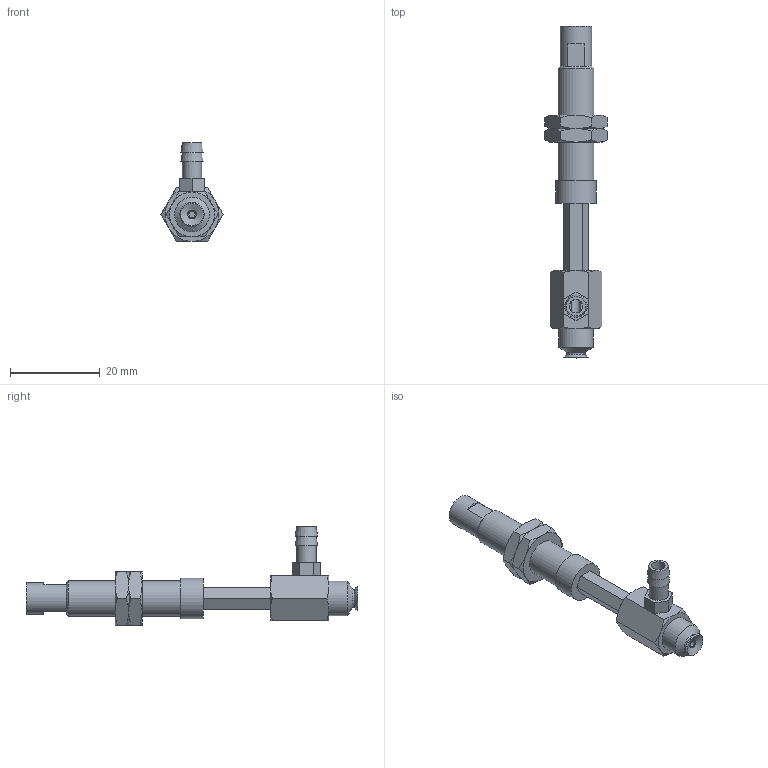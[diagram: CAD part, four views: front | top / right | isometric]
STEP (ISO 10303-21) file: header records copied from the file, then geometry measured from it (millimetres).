
FILE_DESCRIPTION(('STEP AP203'),'1');
FILE_NAME('-T.stp','2025-04-10T02:48:49',(' '),(' '),'Spatial InterOp 3D',' ',' ');
FILE_SCHEMA(('CONFIG_CONTROL_DESIGN'));
Length unit declared in the file: millimetre
Products named in the file (7): BNABPFYH-5A-15-※-T; CONNECTOR-H-5A-15; Nut-5A-15-h; NAPFTH-5A-15-FBODY; NAPFTH-5A-15-MBODY; BPFG-5A-※; T
Assembly tree (7 placements, depth 2):
  BNABPFYH-5A-15-※-T
    CONNECTOR-H-5A-15
    Nut-5A-15-h  x2
    NAPFTH-5A-15-FBODY
    NAPFTH-5A-15-MBODY
    BPFG-5A-※
    T
Bounding box: 13.86 x 74 x 22 mm (x, y, z)
Volume: 3982.4 mm3; surface area: 5089.1 mm2
Topology: 7 solids, 7 shells, 156 faces, 335 edges, 205 vertices
Faces by surface type: plane 74, cone 54, cylinder 18, torus 9, bspline 1
Full cylindrical faces by diameter (mm): 1.4 x1, 2 x1, 3 x1, 4 x2, 4.134 x2, 4.3 x1, 5 x2, 6 x2, 7 x1, 7.188 x2, 7.7 x1, 8 x1, 9 x1
Entity records: 3929 total; most frequent: CARTESIAN_POINT 922, DIRECTION 552, ORIENTED_EDGE 474, EDGE_CURVE 237, AXIS2_PLACEMENT_3D 229, EDGE_LOOP 198, VERTEX_POINT 169, FACE_OUTER_BOUND 160
